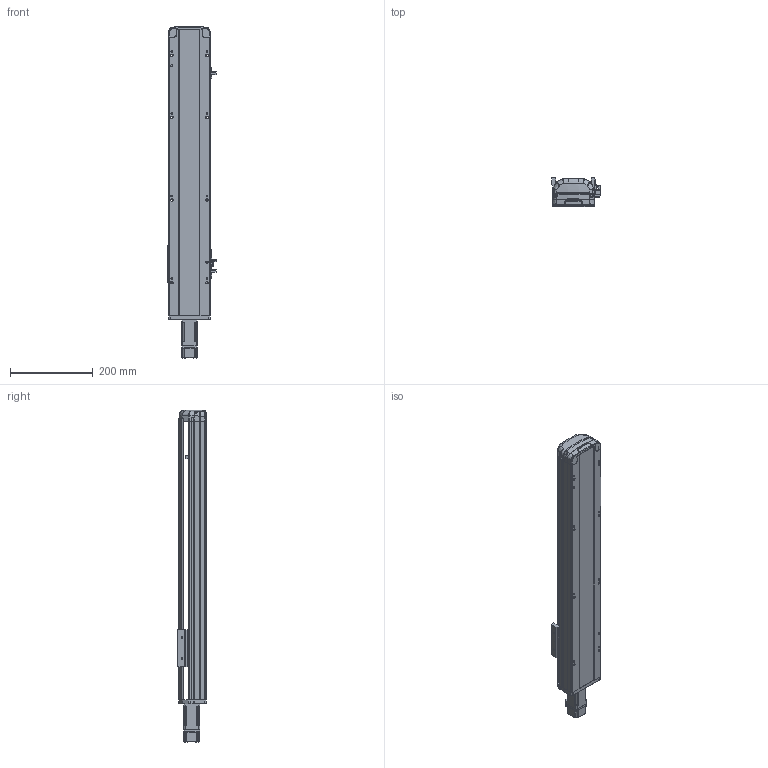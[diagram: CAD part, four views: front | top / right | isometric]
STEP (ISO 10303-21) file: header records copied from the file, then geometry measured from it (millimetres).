
FILE_DESCRIPTION (( 'STEP AP214' ), '1' );
FILE_NAME ('RTH10-XX-450-E-M10-C4.STEP', '2025-10-25T05:23:15', ( 'Microsoft' ), ( 'Microsoft' ), 'SwSTEP 2.0', 'SolidWorks 2018', '' );
FILE_SCHEMA (( 'AUTOMOTIVE_DESIGN' ));
Length unit declared in the file: millimetre
Products named in the file (9): N_P10^RTH10-XX-XX-E-M10-C4; N_RTH13-L-012覜茼え俋离^RTH10-XX-XX-E-M10-C4; N_RTH12-GY-004-賑釱^RTH10-XX-XX-E-M10-C4; N_RTH12-E-007P-奻裔^RTH10-XX-XX-E-M10-C4; N_RTH12-E-011P-臏倰第菁釱^RTH10-XX-XX-E-M10-C4; N_RTH12-E-008-M10萇儂啣^RTH10-XX-XX-E-M10-C4; N_RTH12-GY-001P^RTH10-XX-XX-E-M10-C4; N_OMRON EE-SX672 传感器^RTH10-XX-XX-E-M10-C4; RTH10-XX-450-E-M10-C4
Assembly tree (10 placements, depth 2):
  RTH10-XX-450-E-M10-C4
    N_RTH12-E-011P-臏倰第菁釱^RTH10-XX-XX-E-M10-C4
    N_RTH13-L-012覜茼え俋离^RTH10-XX-XX-E-M10-C4
    N_OMRON EE-SX672 传感器^RTH10-XX-XX-E-M10-C4  x3
    N_P10^RTH10-XX-XX-E-M10-C4
    N_RTH12-E-007P-奻裔^RTH10-XX-XX-E-M10-C4
    N_RTH12-E-008-M10萇儂啣^RTH10-XX-XX-E-M10-C4
    N_RTH12-GY-001P^RTH10-XX-XX-E-M10-C4
    N_RTH12-GY-004-賑釱^RTH10-XX-XX-E-M10-C4
Bounding box: 116.5 x 70 x 803.17 mm (x, y, z)
Volume: 2907411.7 mm3; surface area: 475015.5 mm2
Topology: 9 solids, 11 shells, 1932 faces, 5365 edges, 3518 vertices
Faces by surface type: plane 968, bspline 472, cylinder 457, cone 33, torus 2
Entity records: 57817 total; most frequent: CARTESIAN_POINT 23034, ORIENTED_EDGE 7810, DIRECTION 5989, EDGE_CURVE 3911, VERTEX_POINT 2562, VECTOR 2075, LINE 2075, AXIS2_PLACEMENT_3D 1957
